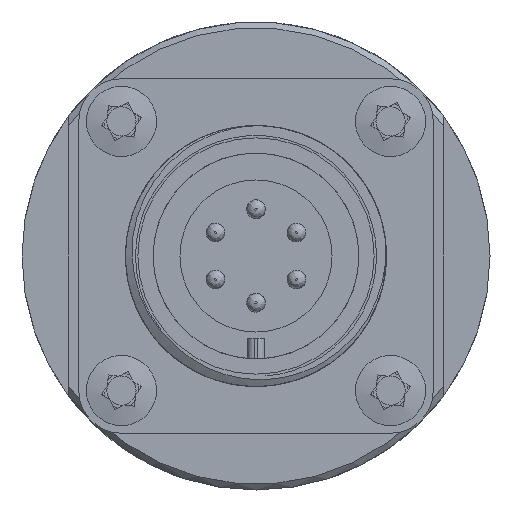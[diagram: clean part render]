
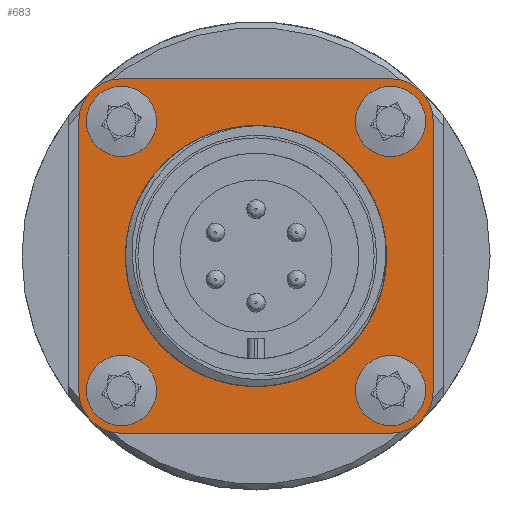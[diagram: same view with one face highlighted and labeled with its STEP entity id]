
A CAD part, front view. The second image highlights one B-rep face of the part: STEP entity #683.
In plain terms, the highlighted planar face has unit normal (0, -1, 0) as drawn and (-1, 0, 0) by its records, which use the part's own axes.
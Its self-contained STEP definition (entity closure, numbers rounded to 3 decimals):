
#683 = ADVANCED_FACE( '', ( #1364, #1365, #1366, #1367, #1368, #1369 ), #1370, .F. );
#1364 = FACE_BOUND( '', #5251, .T. );
#1365 = FACE_BOUND( '', #5252, .T. );
#1366 = FACE_OUTER_BOUND( '', #5253, .T. );
#1367 = FACE_BOUND( '', #5254, .T. );
#1368 = FACE_BOUND( '', #5255, .T. );
#1369 = FACE_BOUND( '', #5256, .T. );
#1370 = PLANE( '', #5257 );
#5251 = EDGE_LOOP( '', ( #7808 ) );
#5252 = EDGE_LOOP( '', ( #7809 ) );
#5253 = EDGE_LOOP( '', ( #7810, #7811, #7812, #7813, #7814, #7815, #7816, #7817 ) );
#5254 = EDGE_LOOP( '', ( #7818 ) );
#5255 = EDGE_LOOP( '', ( #7819 ) );
#5256 = EDGE_LOOP( '', ( #7820 ) );
#5257 = AXIS2_PLACEMENT_3D( '', #7821, #7822, #7823 );
#7808 = ORIENTED_EDGE( '', *, *, #8517, .T. );
#7809 = ORIENTED_EDGE( '', *, *, #8557, .T. );
#7810 = ORIENTED_EDGE( '', *, *, #8468, .F. );
#7811 = ORIENTED_EDGE( '', *, *, #8456, .F. );
#7812 = ORIENTED_EDGE( '', *, *, #8460, .F. );
#7813 = ORIENTED_EDGE( '', *, *, #8558, .F. );
#7814 = ORIENTED_EDGE( '', *, *, #8146, .F. );
#7815 = ORIENTED_EDGE( '', *, *, #8303, .F. );
#7816 = ORIENTED_EDGE( '', *, *, #8487, .F. );
#7817 = ORIENTED_EDGE( '', *, *, #8559, .F. );
#7818 = ORIENTED_EDGE( '', *, *, #8240, .T. );
#7819 = ORIENTED_EDGE( '', *, *, #8245, .T. );
#7820 = ORIENTED_EDGE( '', *, *, #8374, .T. );
#7821 = CARTESIAN_POINT( '', ( -2.4, -11.5, 11.5 ) );
#7822 = DIRECTION( '', ( 1., 0., 0. ) );
#7823 = DIRECTION( '', ( 0., 1., 0. ) );
#8146 = EDGE_CURVE( '', #8703, #8705, #8706, .T. );
#8240 = EDGE_CURVE( '', #8860, #8860, #8861, .T. );
#8245 = EDGE_CURVE( '', #8868, #8868, #8869, .T. );
#8303 = EDGE_CURVE( '', #8961, #8703, #8963, .T. );
#8374 = EDGE_CURVE( '', #9067, #9067, #9068, .T. );
#8456 = EDGE_CURVE( '', #9185, #9187, #9188, .T. );
#8460 = EDGE_CURVE( '', #9191, #9185, #9193, .T. );
#8468 = EDGE_CURVE( '', #9187, #9203, #9204, .T. );
#8487 = EDGE_CURVE( '', #9226, #8961, #9228, .T. );
#8517 = EDGE_CURVE( '', #9265, #9265, #9266, .T. );
#8557 = EDGE_CURVE( '', #9312, #9312, #9313, .T. );
#8558 = EDGE_CURVE( '', #8705, #9191, #9314, .T. );
#8559 = EDGE_CURVE( '', #9203, #9226, #9315, .T. );
#8703 = VERTEX_POINT( '', #9917 );
#8705 = VERTEX_POINT( '', #9920 );
#8706 = CIRCLE( '', #9921, 3.65 );
#8860 = VERTEX_POINT( '', #10580 );
#8861 = CIRCLE( '', #10581, 1.5 );
#8868 = VERTEX_POINT( '', #10588 );
#8869 = CIRCLE( '', #10589, 1.5 );
#8961 = VERTEX_POINT( '', #10870 );
#8963 = LINE( '', #10873, #10874 );
#9067 = VERTEX_POINT( '', #11050 );
#9068 = CIRCLE( '', #11051, 1.5 );
#9185 = VERTEX_POINT( '', #11382 );
#9187 = VERTEX_POINT( '', #11385 );
#9188 = LINE( '', #11386, #11387 );
#9191 = VERTEX_POINT( '', #11391 );
#9193 = CIRCLE( '', #11394, 3.65 );
#9203 = VERTEX_POINT( '', #11833 );
#9204 = CIRCLE( '', #11834, 3.65 );
#9226 = VERTEX_POINT( '', #11880 );
#9228 = CIRCLE( '', #11883, 3.65 );
#9265 = VERTEX_POINT( '', #12322 );
#9266 = CIRCLE( '', #12323, 11.15 );
#9312 = VERTEX_POINT( '', #12884 );
#9313 = CIRCLE( '', #12885, 1.5 );
#9314 = LINE( '', #12886, #12887 );
#9315 = LINE( '', #12888, #12889 );
#9917 = CARTESIAN_POINT( '', ( -2.4, 11.5, -15.15 ) );
#9920 = CARTESIAN_POINT( '', ( -2.4, 15.15, -11.5 ) );
#9921 = AXIS2_PLACEMENT_3D( '', #13337, #13338, #13339 );
#10580 = CARTESIAN_POINT( '', ( -2.4, 13., 11.5 ) );
#10581 = AXIS2_PLACEMENT_3D( '', #13447, #13448, #13449 );
#10588 = CARTESIAN_POINT( '', ( -2.4, 13., -11.5 ) );
#10589 = AXIS2_PLACEMENT_3D( '', #13456, #13457, #13458 );
#10870 = CARTESIAN_POINT( '', ( -2.4, -11.5, -15.15 ) );
#10873 = CARTESIAN_POINT( '', ( -2.4, -11.5, -15.15 ) );
#10874 = VECTOR( '', #13532, 1000. );
#11050 = CARTESIAN_POINT( '', ( -2.4, -10., -11.5 ) );
#11051 = AXIS2_PLACEMENT_3D( '', #13616, #13617, #13618 );
#11382 = CARTESIAN_POINT( '', ( -2.4, 11.5, 15.15 ) );
#11385 = CARTESIAN_POINT( '', ( -2.4, -11.5, 15.15 ) );
#11386 = CARTESIAN_POINT( '', ( -2.4, -11.5, 15.15 ) );
#11387 = VECTOR( '', #13717, 1000. );
#11391 = CARTESIAN_POINT( '', ( -2.4, 15.15, 11.5 ) );
#11394 = AXIS2_PLACEMENT_3D( '', #13720, #13721, #13722 );
#11833 = CARTESIAN_POINT( '', ( -2.4, -15.15, 11.5 ) );
#11834 = AXIS2_PLACEMENT_3D( '', #13726, #13727, #13728 );
#11880 = CARTESIAN_POINT( '', ( -2.4, -15.15, -11.5 ) );
#11883 = AXIS2_PLACEMENT_3D( '', #13739, #13740, #13741 );
#12322 = CARTESIAN_POINT( '', ( -2.4, 11.15, 0. ) );
#12323 = AXIS2_PLACEMENT_3D( '', #13759, #13760, #13761 );
#12884 = CARTESIAN_POINT( '', ( -2.4, -10., 11.5 ) );
#12885 = AXIS2_PLACEMENT_3D( '', #13792, #13793, #13794 );
#12886 = CARTESIAN_POINT( '', ( -2.4, 15.15, 11.5 ) );
#12887 = VECTOR( '', #13795, 1000. );
#12888 = CARTESIAN_POINT( '', ( -2.4, -15.15, 11.5 ) );
#12889 = VECTOR( '', #13796, 1000. );
#13337 = CARTESIAN_POINT( '', ( -2.4, 11.5, -11.5 ) );
#13338 = DIRECTION( '', ( 1., 0., 0. ) );
#13339 = DIRECTION( '', ( 0., -1., 0. ) );
#13447 = CARTESIAN_POINT( '', ( -2.4, 11.5, 11.5 ) );
#13448 = DIRECTION( '', ( 1., 0., 0. ) );
#13449 = DIRECTION( '', ( 0., 1., 0. ) );
#13456 = CARTESIAN_POINT( '', ( -2.4, 11.5, -11.5 ) );
#13457 = DIRECTION( '', ( 1., 0., 0. ) );
#13458 = DIRECTION( '', ( 0., 1., 0. ) );
#13532 = DIRECTION( '', ( 0., 1., 0. ) );
#13616 = CARTESIAN_POINT( '', ( -2.4, -11.5, -11.5 ) );
#13617 = DIRECTION( '', ( 1., 0., 0. ) );
#13618 = DIRECTION( '', ( 0., 1., 0. ) );
#13717 = DIRECTION( '', ( 0., -1., 0. ) );
#13720 = CARTESIAN_POINT( '', ( -2.4, 11.5, 11.5 ) );
#13721 = DIRECTION( '', ( 1., 0., 0. ) );
#13722 = DIRECTION( '', ( 0., 1., 0. ) );
#13726 = CARTESIAN_POINT( '', ( -2.4, -11.5, 11.5 ) );
#13727 = DIRECTION( '', ( 1., 0., 0. ) );
#13728 = DIRECTION( '', ( 0., 1., 0. ) );
#13739 = CARTESIAN_POINT( '', ( -2.4, -11.5, -11.5 ) );
#13740 = DIRECTION( '', ( 1., 0., 0. ) );
#13741 = DIRECTION( '', ( 0., 1., 0. ) );
#13759 = CARTESIAN_POINT( '', ( -2.4, 0., 0. ) );
#13760 = DIRECTION( '', ( 1., 0., 0. ) );
#13761 = DIRECTION( '', ( 0., 1., 0. ) );
#13792 = CARTESIAN_POINT( '', ( -2.4, -11.5, 11.5 ) );
#13793 = DIRECTION( '', ( 1., 0., 0. ) );
#13794 = DIRECTION( '', ( 0., 1., 0. ) );
#13795 = DIRECTION( '', ( 0., 0., 1. ) );
#13796 = DIRECTION( '', ( 0., 0., -1. ) );
